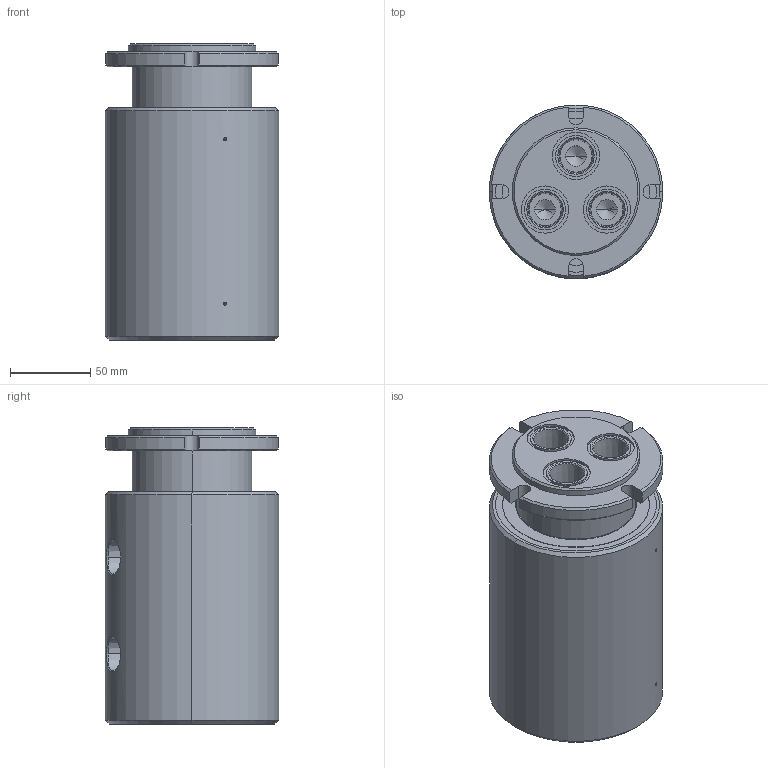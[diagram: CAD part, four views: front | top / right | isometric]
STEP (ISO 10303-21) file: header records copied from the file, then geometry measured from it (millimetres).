
FILE_DESCRIPTION (( 'STEP AP214' ), '1' );
FILE_NAME ('GP(M)-430.STEP', '2013-02-05T23:11:14', ( '' ), ( '' ), 'SwSTEP 2.0', 'SolidWorks 2011', '' );
FILE_SCHEMA (( 'AUTOMOTIVE_DESIGN' ));
Length unit declared in the file: inch
Products named in the file (1): GP(M)-430
Bounding box: 107.95 x 107.95 x 184.1 mm (x, y, z)
Volume: 1464595 mm3; surface area: 101038.8 mm2
Topology: 1 solids, 1 shells, 180 faces, 424 edges, 258 vertices
Faces by surface type: cylinder 77, cone 56, plane 39, bspline 6, torus 2
Entity records: 6404 total; most frequent: CARTESIAN_POINT 1941, DIRECTION 900, ORIENTED_EDGE 800, EDGE_CURVE 400, AXIS2_PLACEMENT_3D 369, VERTEX_POINT 258, EDGE_LOOP 216, CIRCLE 194
